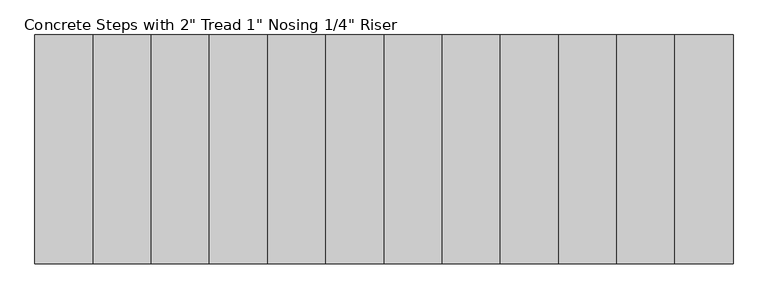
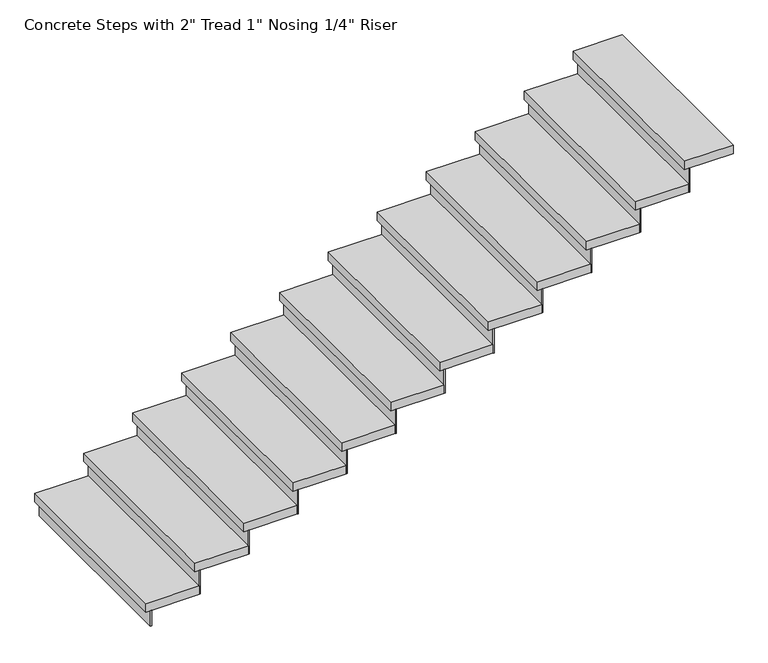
"""IFC4 building model written with IfcOpenShell, lengths in millimetres: stair flight geometry."""

from ifc_helpers import new_model, si_unit, frame, origin, origin_with_axes, place, context, project, spatial, polyline, outline, extrude, source, transform, mapped, element, save


def stair_flight_03183e76(model_context):
    return source(origin(), model_context, "Body", "SweptSolid", [
        extrude(outline(polyline([(-14096.7313244, 8376.9937722), (-14103.0813244, 8376.9937722), (-14103.0813244, 9475.3913722), (-14096.7313244, 9475.3913722), (-14096.7313244, 8376.9937722)])), origin_with_axes(), (0.0, 0.0, 1.0), 94.3428571),
        extrude(outline(polyline([(-13823.6813244, 9475.3913722), (-13823.6813244, 8376.9937722), (-14128.4813244, 8376.9937722), (-14128.4813244, 9475.3913722), (-13823.6813244, 9475.3913722)])), frame((0.0, 0.0, 94.3428571), z_axis=(0.0, 0.0, 1.0), x_axis=(1.0, 0.0, 0.0)), (0.0, 0.0, 1.0), 50.8),
        extrude(outline(polyline([(-13817.3313244, 8376.9937722), (-13823.6813244, 8376.9937722), (-13823.6813244, 9475.3913722), (-13817.3313244, 9475.3913722), (-13817.3313244, 8376.9937722)])), frame((0.0, 0.0, 94.3428571), z_axis=(0.0, 0.0, 1.0), x_axis=(1.0, 0.0, 0.0)), (0.0, 0.0, 1.0), 145.1428571),
        extrude(outline(polyline([(-13544.2813244, 9475.3913722), (-13544.2813244, 8376.9937722), (-13849.0813244, 8376.9937722), (-13849.0813244, 9475.3913722), (-13544.2813244, 9475.3913722)])), frame((0.0, 0.0, 239.4857143), z_axis=(0.0, 0.0, 1.0), x_axis=(1.0, 0.0, 0.0)), (0.0, 0.0, 1.0), 50.8),
        extrude(outline(polyline([(-13537.9313244, 8376.9937722), (-13544.2813244, 8376.9937722), (-13544.2813244, 9475.3913722), (-13537.9313244, 9475.3913722), (-13537.9313244, 8376.9937722)])), frame((0.0, 0.0, 239.4857143), z_axis=(0.0, 0.0, 1.0), x_axis=(1.0, 0.0, 0.0)), (0.0, 0.0, 1.0), 145.1428571),
        extrude(outline(polyline([(-13264.8813244, 9475.3913722), (-13264.8813244, 8376.9937722), (-13569.6813244, 8376.9937722), (-13569.6813244, 9475.3913722), (-13264.8813244, 9475.3913722)])), frame((0.0, 0.0, 384.6285714), z_axis=(0.0, 0.0, 1.0), x_axis=(1.0, 0.0, 0.0)), (0.0, 0.0, 1.0), 50.8),
        extrude(outline(polyline([(-13258.5313244, 8376.9937722), (-13264.8813244, 8376.9937722), (-13264.8813244, 9475.3913722), (-13258.5313244, 9475.3913722), (-13258.5313244, 8376.9937722)])), frame((0.0, 0.0, 384.6285714), z_axis=(0.0, 0.0, 1.0), x_axis=(1.0, 0.0, 0.0)), (0.0, 0.0, 1.0), 145.1428571),
        extrude(outline(polyline([(-12985.4813244, 9475.3913722), (-12985.4813244, 8376.9937722), (-13290.2813244, 8376.9937722), (-13290.2813244, 9475.3913722), (-12985.4813244, 9475.3913722)])), frame((0.0, 0.0, 529.7714286), z_axis=(0.0, 0.0, 1.0), x_axis=(1.0, 0.0, 0.0)), (0.0, 0.0, 1.0), 50.8),
        extrude(outline(polyline([(-12979.1313244, 8376.9937722), (-12985.4813244, 8376.9937722), (-12985.4813244, 9475.3913722), (-12979.1313244, 9475.3913722), (-12979.1313244, 8376.9937722)])), frame((0.0, 0.0, 529.7714286), z_axis=(0.0, 0.0, 1.0), x_axis=(1.0, 0.0, 0.0)), (0.0, 0.0, 1.0), 145.1428571),
        extrude(outline(polyline([(-12706.0813244, 9475.3913722), (-12706.0813244, 8376.9937722), (-13010.8813244, 8376.9937722), (-13010.8813244, 9475.3913722), (-12706.0813244, 9475.3913722)])), frame((0.0, 0.0, 674.9142857), z_axis=(0.0, 0.0, 1.0), x_axis=(1.0, 0.0, 0.0)), (0.0, 0.0, 1.0), 50.8),
        extrude(outline(polyline([(-12699.7313244, 8376.9937722), (-12706.0813244, 8376.9937722), (-12706.0813244, 9475.3913722), (-12699.7313244, 9475.3913722), (-12699.7313244, 8376.9937722)])), frame((0.0, 0.0, 674.9142857), z_axis=(0.0, 0.0, 1.0), x_axis=(1.0, 0.0, 0.0)), (0.0, 0.0, 1.0), 145.1428571),
        extrude(outline(polyline([(-12426.6813244, 9475.3913722), (-12426.6813244, 8376.9937722), (-12731.4813244, 8376.9937722), (-12731.4813244, 9475.3913722), (-12426.6813244, 9475.3913722)])), frame((0.0, 0.0, 820.0571429), z_axis=(0.0, 0.0, 1.0), x_axis=(1.0, 0.0, 0.0)), (0.0, 0.0, 1.0), 50.8),
        extrude(outline(polyline([(-12420.3313244, 8376.9937722), (-12426.6813244, 8376.9937722), (-12426.6813244, 9475.3913722), (-12420.3313244, 9475.3913722), (-12420.3313244, 8376.9937722)])), frame((0.0, 0.0, 820.0571429), z_axis=(0.0, 0.0, 1.0), x_axis=(1.0, 0.0, 0.0)), (0.0, 0.0, 1.0), 145.1428571),
        extrude(outline(polyline([(-12147.2813244, 9475.3913722), (-12147.2813244, 8376.9937722), (-12452.0813244, 8376.9937722), (-12452.0813244, 9475.3913722), (-12147.2813244, 9475.3913722)])), frame((0.0, 0.0, 965.2), z_axis=(0.0, 0.0, 1.0), x_axis=(1.0, 0.0, 0.0)), (0.0, 0.0, 1.0), 50.8),
        extrude(outline(polyline([(-12140.9313244, 8376.9937722), (-12147.2813244, 8376.9937722), (-12147.2813244, 9475.3913722), (-12140.9313244, 9475.3913722), (-12140.9313244, 8376.9937722)])), frame((0.0, 0.0, 965.2), z_axis=(0.0, 0.0, 1.0), x_axis=(1.0, 0.0, 0.0)), (0.0, 0.0, 1.0), 145.1428571),
        extrude(outline(polyline([(-11867.8813244, 9475.3913722), (-11867.8813244, 8376.9937722), (-12172.6813244, 8376.9937722), (-12172.6813244, 9475.3913722), (-11867.8813244, 9475.3913722)])), frame((0.0, 0.0, 1110.3428571), z_axis=(0.0, 0.0, 1.0), x_axis=(1.0, 0.0, 0.0)), (0.0, 0.0, 1.0), 50.8),
        extrude(outline(polyline([(-11861.5313244, 8376.9937722), (-11867.8813244, 8376.9937722), (-11867.8813244, 9475.3913722), (-11861.5313244, 9475.3913722), (-11861.5313244, 8376.9937722)])), frame((0.0, 0.0, 1110.3428571), z_axis=(0.0, 0.0, 1.0), x_axis=(1.0, 0.0, 0.0)), (0.0, 0.0, 1.0), 145.1428571),
        extrude(outline(polyline([(-11588.4813244, 9475.3913722), (-11588.4813244, 8376.9937722), (-11893.2813244, 8376.9937722), (-11893.2813244, 9475.3913722), (-11588.4813244, 9475.3913722)])), frame((0.0, 0.0, 1255.4857143), z_axis=(0.0, 0.0, 1.0), x_axis=(1.0, 0.0, 0.0)), (0.0, 0.0, 1.0), 50.8),
        extrude(outline(polyline([(-11582.1313244, 8376.9937722), (-11588.4813244, 8376.9937722), (-11588.4813244, 9475.3913722), (-11582.1313244, 9475.3913722), (-11582.1313244, 8376.9937722)])), frame((0.0, 0.0, 1255.4857143), z_axis=(0.0, 0.0, 1.0), x_axis=(1.0, 0.0, 0.0)), (0.0, 0.0, 1.0), 145.1428571),
        extrude(outline(polyline([(-11309.0813244, 9475.3913722), (-11309.0813244, 8376.9937722), (-11613.8813244, 8376.9937722), (-11613.8813244, 9475.3913722), (-11309.0813244, 9475.3913722)])), frame((0.0, 0.0, 1400.6285714), z_axis=(0.0, 0.0, 1.0), x_axis=(1.0, 0.0, 0.0)), (0.0, 0.0, 1.0), 50.8),
        extrude(outline(polyline([(-11302.7313244, 8376.9937722), (-11309.0813244, 8376.9937722), (-11309.0813244, 9475.3913722), (-11302.7313244, 9475.3913722), (-11302.7313244, 8376.9937722)])), frame((0.0, 0.0, 1400.6285714), z_axis=(0.0, 0.0, 1.0), x_axis=(1.0, 0.0, 0.0)), (0.0, 0.0, 1.0), 145.1428571),
        extrude(outline(polyline([(-11029.6813244, 9475.3913722), (-11029.6813244, 8376.9937722), (-11334.4813244, 8376.9937722), (-11334.4813244, 9475.3913722), (-11029.6813244, 9475.3913722)])), frame((0.0, 0.0, 1545.7714286), z_axis=(0.0, 0.0, 1.0), x_axis=(1.0, 0.0, 0.0)), (0.0, 0.0, 1.0), 50.8),
        extrude(outline(polyline([(-11023.3313244, 8376.9937722), (-11029.6813244, 8376.9937722), (-11029.6813244, 9475.3913722), (-11023.3313244, 9475.3913722), (-11023.3313244, 8376.9937722)])), frame((0.0, 0.0, 1545.7714286), z_axis=(0.0, 0.0, 1.0), x_axis=(1.0, 0.0, 0.0)), (0.0, 0.0, 1.0), 145.1428571),
        extrude(outline(polyline([(-10775.6813244, 9475.3913722), (-10775.6813244, 8376.9937722), (-11055.0813244, 8376.9937722), (-11055.0813244, 9475.3913722), (-10775.6813244, 9475.3913722)])), frame((0.0, 0.0, 1690.9142857), z_axis=(0.0, 0.0, 1.0), x_axis=(1.0, 0.0, 0.0)), (0.0, 0.0, 1.0), 50.8),
    ])


if __name__ == "__main__":
    model = new_model("IFC4")
    model_context = context("Model", 3, world=origin())
    ifc_project = project(units=[si_unit("LENGTHUNIT", "METRE", prefix="MILLI")], contexts=[model_context])
    site = spatial("IfcSite", under=ifc_project)
    building = spatial("IfcBuilding", under=site)
    placement = place(None, origin())
    stair_flight_shape = stair_flight_03183e76(model_context)
    element("IfcStairFlight", 1, ObjectType="Concrete Steps with 2\" Tread 1\" Nosing 1/4\" Riser", at=placement, inside=building, context=model_context, shape_type="MappedRepresentation", body=[
        mapped(stair_flight_shape, transform((0.0, 0.0, 0.0), x_axis=(1.0, 0.0, 0.0), y_axis=(0.0, 1.0, 0.0), z_axis=(0.0, 0.0, 1.0))),
    ])
    save(model, "model.ifc")
